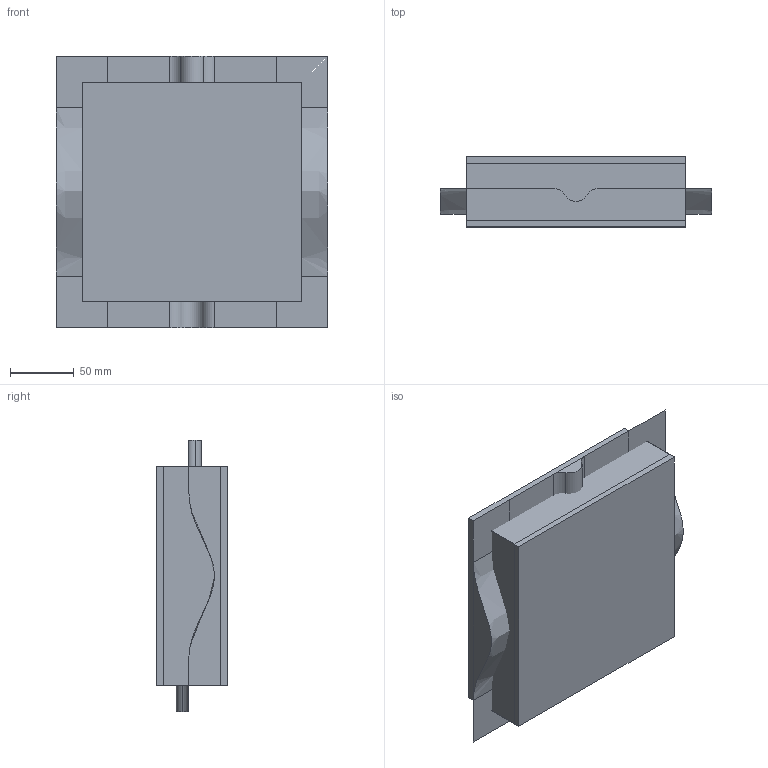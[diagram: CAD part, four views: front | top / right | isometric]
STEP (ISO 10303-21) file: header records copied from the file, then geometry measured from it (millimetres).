
FILE_DESCRIPTION(('CATIA V5 STEP Exchange'),'2;1');
FILE_NAME('C:\_Andres\UNIVERSIDAD\IQS\ASIGNATURAS\DAO\EXF\EXF-16172c\2inicio\Sarasa_Prat_Ej02_v32.stp','2017-03-05T15:45:39+00:00',('none'),('none'),'CATIA Version 5-6 Release 2014 SP1 HF18','CATIA V5 STEP AP203','none');
FILE_SCHEMA(('CONFIG_CONTROL_DESIGN'));
Length unit declared in the file: millimetre
Products named in the file (1): Sarasa_Prat_Ej02_v32
Bounding box: 212 x 55 x 212 mm (x, y, z)
Surface area: 292993.8 mm2
Topology: 3 solids, 10 shells, 72 faces, 205 edges, 150 vertices
Faces by surface type: bspline 32, plane 32, cylinder 6, extrusion 2
Entity records: 5738 total; most frequent: CARTESIAN_POINT 4421, ORIENTED_EDGE 288, DIRECTION 151, EDGE_CURVE 132, VERTEX_POINT 84, VECTOR 77, LINE 75, ADVANCED_FACE 72
